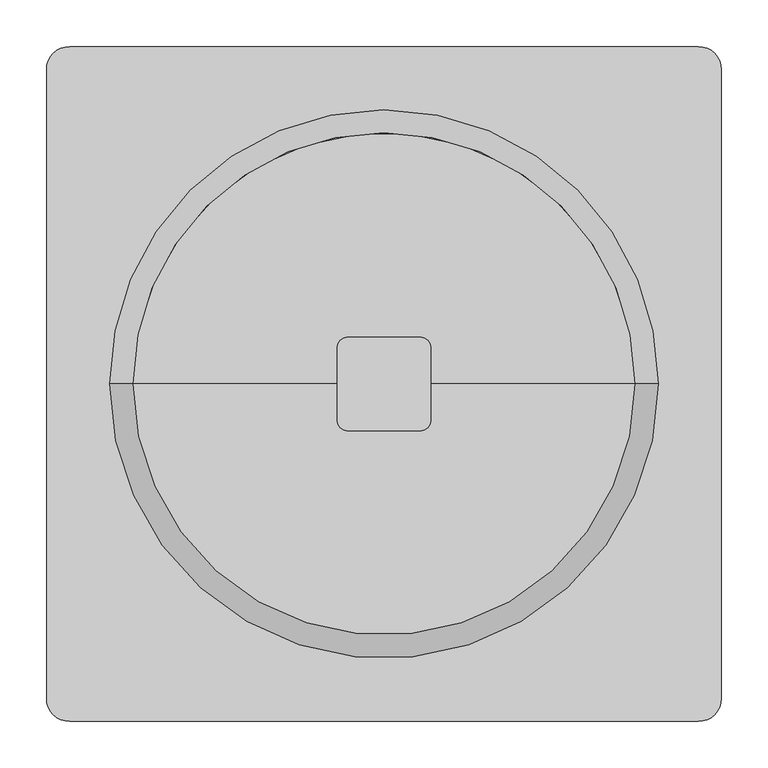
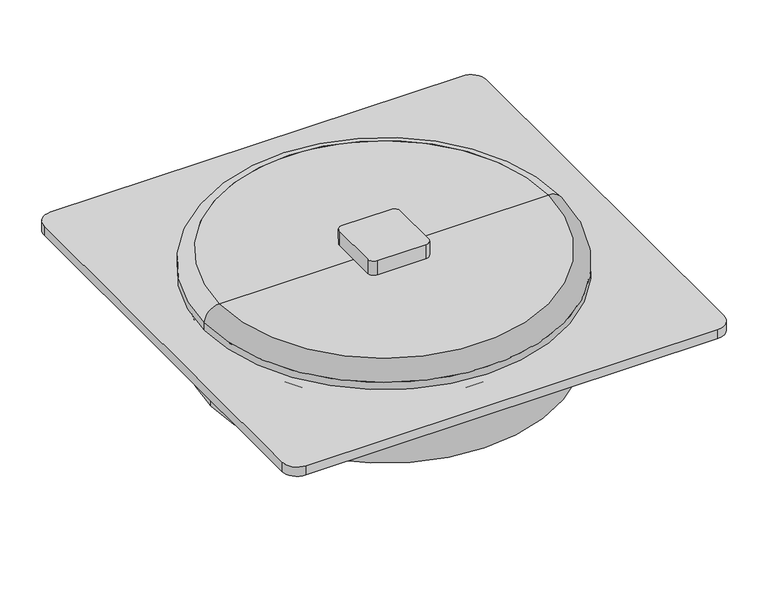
"""IFC4 building model written with IfcOpenShell, lengths in millimetres: unitary equipment geometry, VE-Wentylator-ParaForma-Harmann-WAF-Wywiewny : 560/4/13200T."""

from ifc_helpers import new_model, si_unit, point, frame, frame_2d, origin, origin_with_axes, origin_2d, place, context, project, spatial, polyline, circle_curve, ellipse_curve, trimmed, segment, composite_curve, outline, extrude, source, transform, mapped, element, save
from ifc_brep_helpers import plane_surface, cylinder_surface, revolved_surface, advanced_brep


def unitary_equipment_6732c8a4(model_context):
    return source(origin(), model_context, "Body", "SolidModel", [
        advanced_brep(
        [(294.5, 0.0, 16.0), (-294.5, 0.0, 16.0), (0.0, 0.0, 16.0), (294.5, 0.0, 28.3333333), (-294.5, 0.0, 28.3333333), (269.8333333, 0.0, 53.0), (-269.8333333, 0.0, 53.0), (0.0, 0.0, 53.0)],
        [
            (0, 1, circle_curve(frame((0.0, 0.0, 16.0), z_axis=(0.0, 0.0, -1.0), x_axis=(-1.0000000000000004, 0.0, 0.0)), 294.5)),
            (1, 2),
            (2, 0),
            (1, 0, circle_curve(frame((0.0, 0.0, 16.0), z_axis=(0.0, 0.0, -1.0), x_axis=(-1.0000000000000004, 0.0, 0.0)), 294.5)),
            (3, 4, circle_curve(frame((0.0, 0.0, 28.3333333), z_axis=(0.0, 0.0, -1.0), x_axis=(-1.0000000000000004, 0.0, 0.0)), 294.5)),
            (4, 1),
            (0, 3),
            (4, 3, circle_curve(frame((0.0, 0.0, 28.3333333), z_axis=(0.0, 0.0, -1.0), x_axis=(-1.0000000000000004, 0.0, 0.0)), 294.5)),
            (5, 6, circle_curve(frame((0.0, 0.0, 53.0), z_axis=(0.0, 0.0, -1.0), x_axis=(-1.0000000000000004, 0.0, 0.0)), 269.8333333)),
            (6, 4, circle_curve(frame((-269.8333333, 0.0, 28.3333333), z_axis=(0.0, -1.0000000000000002, 0.0), x_axis=(0.0, 0.0, -1.0000000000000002)), 24.6666667)),
            (3, 5, circle_curve(frame((269.8333333, 0.0, 28.3333333), z_axis=(0.0, -1.0000000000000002, 0.0), x_axis=(0.0, 0.0, -1.0000000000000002)), 24.6666667)),
            (6, 5, circle_curve(frame((0.0, 0.0, 53.0), z_axis=(0.0, 0.0, -1.0), x_axis=(-1.0000000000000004, 0.0, 0.0)), 269.8333333)),
            (7, 6),
            (5, 7),
        ],
        [
            plane_surface(frame((0.0, 0.0, 16.0), z_axis=(0.0, 0.0, -1.0), x_axis=(-1.0, 0.0, 0.0))),
            cylinder_surface(frame((0.0, 0.0, 53.0), z_axis=(0.0, 0.0, 1.0000000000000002), x_axis=(-1.0000000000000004, 0.0, 0.0)), 294.5),
            revolved_surface(trimmed(ellipse_curve(frame((-269.8333333, 0.0, 28.3333333), z_axis=(0.0, 1.0000000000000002, 0.0), x_axis=(0.0, 0.0, -1.0000000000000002)), 24.6666667, 24.6666667), [point((-294.5, 0.0, 28.3333333))], [point((-269.8333333, 0.0, 53.0))], True, "CARTESIAN"), (0.0, 0.0, 53.0), (0.0, 0.0, 1.0000000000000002)),
            plane_surface(frame((0.0, 0.0, 53.0), z_axis=(0.0, 0.0, 1.0), x_axis=(-1.0, 0.0, 0.0))),
        ],
        [
            (0, [[1, 2, 3]]),
            (0, [[4, -3, -2]]),
            (1, [[5, 6, -1, 7]]),
            (1, [[8, -7, -4, -6]]),
            (2, [[9, 10, -5, 11]]),
            (2, [[12, -11, -8, -10]]),
            (3, [[13, -9, 14]]),
            (3, [[-14, -12, -13]]),
        ],
    ),
        extrude(outline(composite_curve([segment(trimmed(circle_curve(origin_2d(), 88.35), [point((88.35, 0.0))], [point((-88.35, 0.0))], False, "CARTESIAN"), True, "CONTINUOUS"), segment(trimmed(circle_curve(origin_2d(), 88.35), [point((-88.35, 0.0))], [point((88.35, 0.0))], False, "CARTESIAN"), True, "CONTINUOUS")], self_intersect=False)), frame((0.0, 0.0, -143.0), z_axis=(0.0, 0.0, 1.0), x_axis=(1.0, 0.0, 0.0)), (0.0, 0.0, 1.0), 24.0),
        advanced_brep(
        [(0.0, 0.0, 0.0), (-294.5, 0.0, 0.0), (294.5, 0.0, 0.0), (284.0, 0.0, -119.0), (-284.0, 0.0, -119.0), (0.0, 0.0, -119.0), (284.0, 0.0, -10.5), (-284.0, 0.0, -10.5)],
        [
            (0, 1),
            (1, 2, circle_curve(frame((0.0, 0.0, 0.0), z_axis=(0.0, 0.0, 1.0), x_axis=(-1.0000000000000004, 0.0, 0.0)), 294.5)),
            (2, 0),
            (2, 1, circle_curve(frame((0.0, 0.0, 0.0), z_axis=(0.0, 0.0, 1.0), x_axis=(-1.0000000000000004, 0.0, 0.0)), 294.5)),
            (3, 4, circle_curve(frame((0.0, 0.0, -119.0), z_axis=(0.0, 0.0, -1.0), x_axis=(-1.0000000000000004, 0.0, 0.0)), 284.0)),
            (4, 5),
            (5, 3),
            (4, 3, circle_curve(frame((0.0, 0.0, -119.0), z_axis=(0.0, 0.0, -1.0), x_axis=(-1.0000000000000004, 0.0, 0.0)), 284.0)),
            (6, 7, circle_curve(frame((0.0, 0.0, -10.5), z_axis=(0.0, 0.0, -1.0), x_axis=(-1.0000000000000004, 0.0, 0.0)), 284.0)),
            (7, 4),
            (3, 6),
            (7, 6, circle_curve(frame((0.0, 0.0, -10.5), z_axis=(0.0, 0.0, -1.0), x_axis=(-1.0000000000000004, 0.0, 0.0)), 284.0)),
            (1, 7, circle_curve(frame((-294.5, 0.0, -10.5), z_axis=(0.0, 1.0000000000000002, 0.0), x_axis=(0.0, 0.0, -1.0000000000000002)), 10.5)),
            (6, 2, circle_curve(frame((294.5, 0.0, -10.5), z_axis=(0.0, 1.0000000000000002, 0.0), x_axis=(0.0, 0.0, -1.0000000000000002)), 10.5)),
        ],
        [
            plane_surface(frame((0.0, 0.0, 0.0), z_axis=(0.0, 0.0, 1.0), x_axis=(-1.0, 0.0, 0.0))),
            plane_surface(frame((0.0, 0.0, -119.0), z_axis=(0.0, 0.0, -1.0), x_axis=(-1.0, 0.0, 0.0))),
            cylinder_surface(frame((0.0, 0.0, 0.0), z_axis=(0.0, 0.0, 1.0000000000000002), x_axis=(-1.0000000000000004, 0.0, 0.0)), 284.0),
            revolved_surface(trimmed(ellipse_curve(frame((-294.5, 0.0, -10.5), z_axis=(0.0, -1.0000000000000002, 0.0), x_axis=(0.0, 0.0, -1.0000000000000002)), 10.5, 10.5), [point((-284.0, 0.0, -10.5))], [point((-294.5, 0.0, 0.0))], True, "CARTESIAN"), (0.0, 0.0, 0.0), (0.0, 0.0, 1.0000000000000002)),
        ],
        [
            (0, [[1, 2, 3]]),
            (0, [[-3, 4, -1]]),
            (1, [[5, 6, 7]]),
            (1, [[8, -7, -6]]),
            (2, [[9, 10, -5, 11]]),
            (2, [[12, -11, -8, -10]]),
            (3, [[-2, 13, -9, 14]]),
            (3, [[-4, -14, -12, -13]]),
        ],
    ),
        extrude(outline(composite_curve([segment(polyline([(40.0, -50.0), (-40.0, -50.0)]), True, "CONTINUOUS"), segment(trimmed(circle_curve(frame_2d((-40.0, -40.0)), 10.0), [point((-40.0, -50.0))], [point((-50.0, -40.0))], False, "CARTESIAN"), True, "CONTINUOUS"), segment(polyline([(-50.0, -40.0), (-50.0, 40.0)]), True, "CONTINUOUS"), segment(trimmed(circle_curve(frame_2d((-40.0, 40.0)), 10.0), [point((-50.0, 40.0))], [point((-40.0, 50.0))], False, "CARTESIAN"), True, "CONTINUOUS"), segment(polyline([(-40.0, 50.0), (40.0, 50.0)]), True, "CONTINUOUS"), segment(trimmed(circle_curve(frame_2d((40.0, 40.0)), 10.0), [point((40.0, 50.0))], [point((50.0, 40.0))], False, "CARTESIAN"), True, "CONTINUOUS"), segment(polyline([(50.0, 40.0), (50.0, -40.0)]), True, "CONTINUOUS"), segment(trimmed(circle_curve(frame_2d((40.0, -40.0)), 10.0), [point((50.0, -40.0))], [point((40.0, -50.0))], False, "CARTESIAN"), True, "CONTINUOUS")], self_intersect=False)), frame((0.0, 0.0, 53.0), z_axis=(0.0, 0.0, 1.0), x_axis=(1.0, 0.0, 0.0)), (0.0, 0.0, 1.0), 25.0),
        extrude(outline(composite_curve([segment(polyline([(337.5, -362.5), (-337.5, -362.5)]), True, "CONTINUOUS"), segment(trimmed(circle_curve(frame_2d((-337.5, -337.5)), 25.0), [point((-337.5, -362.5))], [point((-362.5, -337.5))], False, "CARTESIAN"), True, "CONTINUOUS"), segment(polyline([(-362.5, -337.5), (-362.5, 337.5)]), True, "CONTINUOUS"), segment(trimmed(circle_curve(frame_2d((-337.5, 337.5)), 25.0), [point((-362.5, 337.5))], [point((-337.5, 362.5))], False, "CARTESIAN"), True, "CONTINUOUS"), segment(polyline([(-337.5, 362.5), (337.5, 362.5)]), True, "CONTINUOUS"), segment(trimmed(circle_curve(frame_2d((337.5, 337.5)), 25.0), [point((337.5, 362.5))], [point((362.5, 337.5))], False, "CARTESIAN"), True, "CONTINUOUS"), segment(polyline([(362.5, 337.5), (362.5, -337.5)]), True, "CONTINUOUS"), segment(trimmed(circle_curve(frame_2d((337.5, -337.5)), 25.0), [point((362.5, -337.5))], [point((337.5, -362.5))], False, "CARTESIAN"), True, "CONTINUOUS")], self_intersect=False)), origin_with_axes(), (0.0, 0.0, 1.0), 16.0),
    ])


if __name__ == "__main__":
    model = new_model("IFC4")
    model_context = context("Model", 3, world=origin())
    ifc_project = project(units=[si_unit("LENGTHUNIT", "METRE", prefix="MILLI")], contexts=[model_context])
    site = spatial("IfcSite", under=ifc_project)
    building = spatial("IfcBuilding", under=site)
    placement = place(None, origin())
    unitary_equipment_shape = unitary_equipment_6732c8a4(model_context)
    element("IfcUnitaryEquipment", 1, ObjectType="VE-Wentylator-ParaForma-Harmann-WAF-Wywiewny : 560/4/13200T", at=placement, inside=building, context=model_context, shape_type="MappedRepresentation", body=[
        mapped(unitary_equipment_shape, transform((0.0, 0.0, 0.0), x_axis=(1.0, 0.0, 0.0), y_axis=(0.0, 1.0, 0.0), z_axis=(0.0, 0.0, 1.0))),
    ])
    save(model, "model.ifc")
